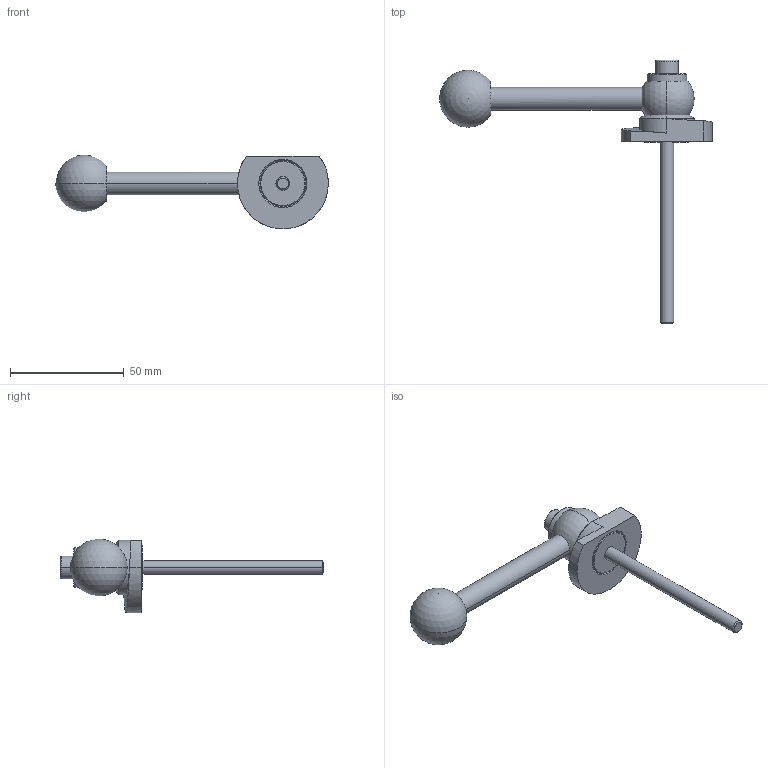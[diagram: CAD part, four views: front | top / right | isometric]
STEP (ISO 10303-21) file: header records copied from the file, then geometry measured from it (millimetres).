
FILE_DESCRIPTION (( 'STEP AP214' ), '1' );
FILE_NAME ('918.1-40-GVS-L-80.step', '2024-05-15T12:59:32', ( '' ), ( '' ), 'SwSTEP 2.0', 'SolidWorks 2022', '' );
FILE_SCHEMA (( 'AUTOMOTIVE_DESIGN' ));
Length unit declared in the file: millimetre
Products named in the file (1): 918.1-40-GVS-L-80
Bounding box: 120 x 116 x 32.5 mm (x, y, z)
Volume: 31769.7 mm3; surface area: 12247 mm2
Topology: 1 solids, 1 shells, 62 faces, 141 edges, 89 vertices
Faces by surface type: plane 20, cylinder 19, cone 14, sphere 4, bspline 3, torus 2
Entity records: 2003 total; most frequent: CARTESIAN_POINT 614, DIRECTION 304, ORIENTED_EDGE 262, EDGE_CURVE 131, AXIS2_PLACEMENT_3D 125, VERTEX_POINT 83, EDGE_LOOP 74, CIRCLE 65
